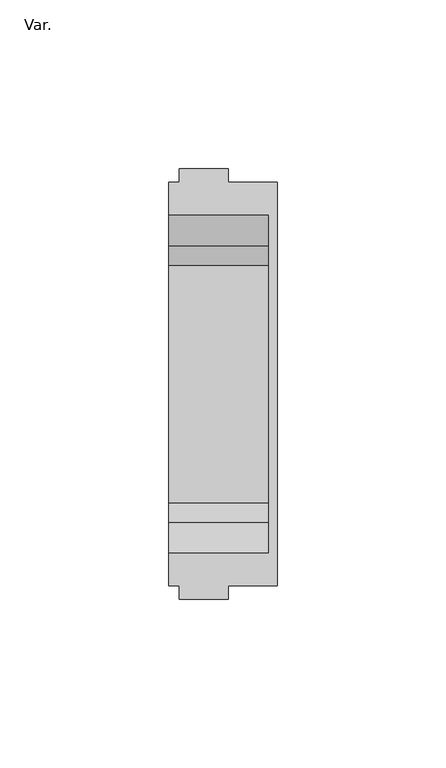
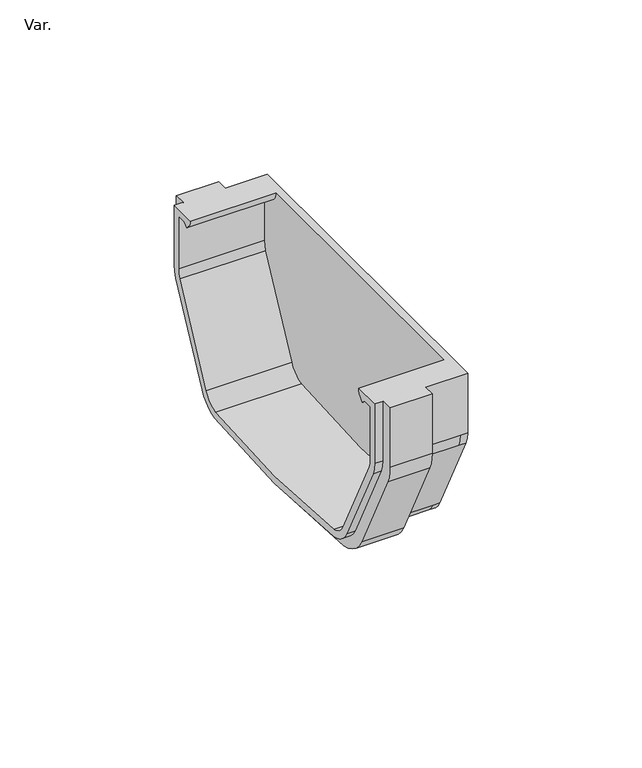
"""IFC4 building model written with IfcOpenShell, lengths in millimetres: pipe fitting geometry, PavcoWavin_UnionesDeTuberia_Canal Raingo_Tapa Externa : Var.."""

from ifc_helpers import new_model, si_unit, frame, origin, place, context, project, spatial, polyline, circle_curve, source, transform, mapped, element, save
from ifc_brep_helpers import plane_surface, cylinder_surface, revolved_surface, advanced_brep


def var_a2d437c5(model_context):
    return source(origin(), model_context, "Body", "AdvancedBrep", [
        advanced_brep(
        [(3.0, 59.65, 69.0), (3.0, 63.65, 69.0), (3.0, 63.65, 47.349975), (3.0, 62.3505519, 41.3222652), (3.0, 46.7108918, 9.9822491), (3.0, 36.1652462, 2.1078834), (3.0, -36.1652462, 2.1078834), (3.0, -46.7108918, 9.9822491), (3.0, -62.3505519, 41.3222652), (3.0, -63.65, 47.349975), (3.0, -63.65, 69.0), (3.0, -59.65, 69.0), (3.0, -59.65, 47.349975), (3.0, -58.7346069, 43.0345014), (3.0, -43.1317978, 11.7683303), (3.0, -35.5756149, 6.0662115), (3.0, 35.5756149, 6.0662115), (3.0, 43.1317978, 11.7683303), (3.0, 58.7346069, 43.0345014), (3.0, 59.65, 47.349975), (17.5, -63.65, 69.0), (17.5, -59.65, 69.0), (32.0, -59.65, 69.0), (32.0, 59.65, 69.0), (17.5, 59.65, 69.0), (17.5, 63.65, 69.0), (0.0, 59.65, 69.0), (0.0, 50.15, 69.0), (29.5, 50.15, 69.0), (29.5, -50.15, 69.0), (0.0, -50.15, 69.0), (0.0, -59.65, 69.0), (17.5, -63.65, 47.349975), (17.5, -62.3505519, 41.3222652), (17.5, -46.7108918, 9.9822491), (17.5, -36.1652462, 2.1078834), (17.5, 36.1652462, 2.1078834), (17.5, 46.7108918, 9.9822491), (17.5, 62.3505519, 41.3222652), (17.5, 63.65, 47.349975), (17.5, 59.65, 47.349975), (17.5, 58.7346069, 43.0345014), (17.5, 43.1317978, 11.7683303), (17.5, 35.5756149, 6.0662115), (17.5, -35.5756149, 6.0662115), (17.5, -43.1317978, 11.7683303), (17.5, -58.7346069, 43.0345014), (17.5, -59.65, 47.349975), (0.0, -52.2524004, 65.2296085), (0.0, -53.766394, 66.5), (0.0, -57.15, 66.5), (0.0, -57.15, 47.349975), (0.0, -56.4709703, 44.0972929), (0.0, -40.8948641, 12.8846311), (0.0, -35.1949678, 8.5387835), (0.0, 35.1949678, 8.5387835), (0.0, 40.8948641, 12.8846311), (0.0, 56.4709703, 44.0972929), (0.0, 57.15, 47.349975), (0.0, 57.15, 66.5), (0.0, 53.766394, 66.5), (0.0, 52.2524004, 65.2296085), (0.0, 59.65, 47.349975), (0.0, 58.7346069, 43.0345014), (0.0, 43.1317978, 11.7683303), (0.0, 35.5756149, 6.0662115), (0.0, -35.5756149, 6.0662115), (0.0, -43.1317978, 11.7683303), (0.0, -58.7346069, 43.0345014), (0.0, -59.65, 47.349975), (29.5, -59.65, 47.349975), (32.0, -59.65, 47.349975), (29.5, -58.7346069, 43.0345014), (29.5, -43.1317978, 11.7683303), (32.0, -43.1317978, 11.7683303), (32.0, -58.7346069, 43.0345014), (29.5, -35.5756149, 6.0662115), (29.5, 35.5756149, 6.0662115), (29.5, 43.1317978, 11.7683303), (29.5, 58.7346069, 43.0345014), (32.0, 58.7346069, 43.0345014), (32.0, 43.1317978, 11.7683303), (29.5, 59.65, 47.349975), (32.0, 59.65, 47.349975), (29.5, 52.2524004, 65.2296085), (29.5, 53.766394, 66.5), (29.5, 57.15, 66.5), (29.5, 57.15, 47.349975), (29.5, 56.4709703, 44.0972929), (29.5, 40.8948641, 12.8846311), (29.5, 35.1949678, 8.5387835), (29.5, -35.1949678, 8.5387835), (29.5, -40.8948641, 12.8846311), (29.5, -56.4709703, 44.0972929), (29.5, -57.15, 47.349975), (29.5, -57.15, 66.5), (29.5, -53.766394, 66.5), (29.5, -52.2524004, 65.2296085), (32.0, -35.5756149, 6.0662115), (32.0, 35.5756149, 6.0662115)],
        [
            (0, 1),
            (1, 2),
            (2, 3, circle_curve(frame((3.0, 49.02, 47.349975), z_axis=(-1.0, 0.0, 0.0), x_axis=(0.0, -1.0, 0.0)), 14.63)),
            (3, 4),
            (4, 5, circle_curve(frame((3.0, 33.6203555, 16.5148411), z_axis=(-1.0, 0.0, 0.0), x_axis=(0.0, -1.0, 0.0)), 14.63)),
            (5, 6, circle_curve(frame((3.0, 0.0, 311.3), z_axis=(-1.0, 0.0, 0.0), x_axis=(0.0, -1.0, 0.0)), 311.3)),
            (6, 7, circle_curve(frame((3.0, -33.6203555, 16.5148411), z_axis=(-1.0, 0.0, 0.0), x_axis=(0.0, -1.0, 0.0)), 14.63)),
            (7, 8),
            (8, 9, circle_curve(frame((3.0, -49.02, 47.349975), z_axis=(-1.0, 0.0, 0.0), x_axis=(0.0, -1.0, 0.0)), 14.63)),
            (9, 10),
            (10, 11),
            (11, 12),
            (12, 13, circle_curve(frame((3.0, -49.02, 47.349975), z_axis=(1.0, 0.0, 0.0), x_axis=(0.0, -1.0, 0.0)), 10.63)),
            (13, 14),
            (14, 15, circle_curve(frame((3.0, -33.6203555, 16.5148411), z_axis=(1.0, 0.0, 0.0), x_axis=(0.0, -1.0, 0.0)), 10.63)),
            (15, 16, circle_curve(frame((3.0, 0.0, 311.3), z_axis=(1.0, 0.0, 0.0), x_axis=(0.0, -1.0, 0.0)), 307.3)),
            (16, 17, circle_curve(frame((3.0, 33.6203555, 16.5148411), z_axis=(1.0, 0.0, 0.0), x_axis=(0.0, 1.0, 0.0)), 10.63)),
            (17, 18),
            (18, 19, circle_curve(frame((3.0, 49.02, 47.349975), z_axis=(1.0, 0.0, 0.0), x_axis=(0.0, 1.0, 0.0)), 10.63)),
            (19, 0),
            (10, 20),
            (20, 21),
            (21, 22),
            (22, 23),
            (23, 24),
            (24, 25),
            (25, 1),
            (0, 26),
            (26, 27),
            (27, 28),
            (28, 29),
            (29, 30),
            (30, 31),
            (31, 11),
            (9, 32),
            (32, 20),
            (8, 33),
            (33, 32, circle_curve(frame((17.5, -49.02, 47.349975), z_axis=(-1.0, 0.0, 0.0), x_axis=(0.0, -1.0, 0.0)), 14.63)),
            (7, 34),
            (34, 33),
            (6, 35),
            (35, 34, circle_curve(frame((17.5, -33.6203555, 16.5148411), z_axis=(-1.0, 0.0, 0.0), x_axis=(0.0, -1.0, 0.0)), 14.63)),
            (5, 36),
            (36, 35, circle_curve(frame((17.5, 0.0, 311.3), z_axis=(-1.0, 0.0, 0.0), x_axis=(0.0, -1.0, 0.0)), 311.3)),
            (4, 37),
            (37, 36, circle_curve(frame((17.5, 33.6203555, 16.5148411), z_axis=(-1.0, 0.0, 0.0), x_axis=(0.0, -1.0, 0.0)), 14.63)),
            (3, 38),
            (38, 37),
            (2, 39),
            (39, 38, circle_curve(frame((17.5, 49.02, 47.349975), z_axis=(-1.0, 0.0, 0.0), x_axis=(0.0, -1.0, 0.0)), 14.63)),
            (25, 39),
            (24, 40),
            (40, 41, circle_curve(frame((17.5, 49.02, 47.349975), z_axis=(-1.0, 0.0, 0.0), x_axis=(0.0, 1.0, 0.0)), 10.63)),
            (41, 42),
            (42, 43, circle_curve(frame((17.5, 33.6203555, 16.5148411), z_axis=(-1.0, 0.0, 0.0), x_axis=(0.0, 1.0, 0.0)), 10.63)),
            (43, 44, circle_curve(frame((17.5, 0.0, 311.3), z_axis=(-1.0, 0.0, 0.0), x_axis=(0.0, -1.0, 0.0)), 307.3)),
            (44, 45, circle_curve(frame((17.5, -33.6203555, 16.5148411), z_axis=(-1.0, 0.0, 0.0), x_axis=(0.0, -1.0, 0.0)), 10.63)),
            (45, 46),
            (46, 47, circle_curve(frame((17.5, -49.02, 47.349975), z_axis=(-1.0, 0.0, 0.0), x_axis=(0.0, -1.0, 0.0)), 10.63)),
            (47, 21),
            (30, 48, circle_curve(frame((0.0, -55.1403012, 69.3112785), z_axis=(-1.0, 0.0, 0.0), x_axis=(0.0, -1.0, 0.0)), 5.0)),
            (48, 49),
            (49, 50),
            (50, 51),
            (51, 52, circle_curve(frame((0.0, -49.02, 47.349975), z_axis=(1.0, 0.0, 0.0), x_axis=(0.0, -1.0, 0.0)), 8.13)),
            (52, 53),
            (53, 54, circle_curve(frame((0.0, -33.6203555, 16.5148411), z_axis=(1.0, 0.0, 0.0), x_axis=(0.0, -1.0, 0.0)), 8.13)),
            (54, 55, circle_curve(frame((0.0, 0.0, 311.3), z_axis=(1.0, 0.0, 0.0), x_axis=(0.0, -1.0, 0.0)), 304.8)),
            (55, 56, circle_curve(frame((0.0, 33.6203555, 16.5148411), z_axis=(1.0, 0.0, 0.0), x_axis=(0.0, 1.0, 0.0)), 8.13)),
            (56, 57),
            (57, 58, circle_curve(frame((0.0, 49.02, 47.349975), z_axis=(1.0, 0.0, 0.0), x_axis=(0.0, 1.0, 0.0)), 8.13)),
            (58, 59),
            (59, 60),
            (60, 61),
            (61, 27, circle_curve(frame((0.0, 55.1403012, 69.3112785), z_axis=(-1.0, 0.0, 0.0), x_axis=(0.0, 1.0, 0.0)), 5.0)),
            (26, 62),
            (62, 63, circle_curve(frame((0.0, 49.02, 47.349975), z_axis=(-1.0, 0.0, 0.0), x_axis=(0.0, 1.0, 0.0)), 10.63)),
            (63, 64),
            (64, 65, circle_curve(frame((0.0, 33.6203555, 16.5148411), z_axis=(-1.0, 0.0, 0.0), x_axis=(0.0, 1.0, 0.0)), 10.63)),
            (65, 66, circle_curve(frame((0.0, 0.0, 311.3), z_axis=(-1.0, 0.0, 0.0), x_axis=(0.0, -1.0, 0.0)), 307.3)),
            (66, 67, circle_curve(frame((0.0, -33.6203555, 16.5148411), z_axis=(-1.0, 0.0, 0.0), x_axis=(0.0, -1.0, 0.0)), 10.63)),
            (67, 68),
            (68, 69, circle_curve(frame((0.0, -49.02, 47.349975), z_axis=(-1.0, 0.0, 0.0), x_axis=(0.0, -1.0, 0.0)), 10.63)),
            (69, 31),
            (69, 12),
            (47, 70),
            (70, 71),
            (71, 22),
            (68, 13),
            (46, 72),
            (72, 70, circle_curve(frame((29.5, -49.02, 47.349975), z_axis=(-1.0, 0.0, 0.0), x_axis=(0.0, -1.0, 0.0)), 10.63)),
            (67, 14),
            (45, 73),
            (73, 74),
            (74, 75),
            (75, 72),
            (66, 15),
            (44, 76),
            (76, 73, circle_curve(frame((29.5, -33.6203555, 16.5148411), z_axis=(-1.0, 0.0, 0.0), x_axis=(0.0, -1.0, 0.0)), 10.63)),
            (65, 16),
            (43, 77),
            (77, 76, circle_curve(frame((29.5, 0.0, 311.3), z_axis=(-1.0, 0.0, 0.0), x_axis=(0.0, -1.0, 0.0)), 307.3)),
            (64, 17),
            (42, 78),
            (78, 77, circle_curve(frame((29.5, 33.6203555, 16.5148411), z_axis=(-1.0, 0.0, 0.0), x_axis=(0.0, 1.0, 0.0)), 10.63)),
            (63, 18),
            (41, 79),
            (79, 80),
            (80, 81),
            (81, 78),
            (62, 19),
            (40, 82),
            (82, 79, circle_curve(frame((29.5, 49.02, 47.349975), z_axis=(-1.0, 0.0, 0.0), x_axis=(0.0, 1.0, 0.0)), 10.63)),
            (23, 83),
            (83, 82),
            (61, 84),
            (84, 28, circle_curve(frame((29.5, 55.1403012, 69.3112785), z_axis=(-1.0, 0.0, 0.0), x_axis=(0.0, 1.0, 0.0)), 5.0)),
            (60, 85),
            (85, 84),
            (59, 86),
            (86, 85),
            (58, 87),
            (87, 86),
            (57, 88),
            (88, 87, circle_curve(frame((29.5, 49.02, 47.349975), z_axis=(1.0, 0.0, 0.0), x_axis=(0.0, 1.0, 0.0)), 8.13)),
            (56, 89),
            (89, 88),
            (55, 90),
            (90, 89, circle_curve(frame((29.5, 33.6203555, 16.5148411), z_axis=(1.0, 0.0, 0.0), x_axis=(0.0, 1.0, 0.0)), 8.13)),
            (54, 91),
            (91, 90, circle_curve(frame((29.5, 0.0, 311.3), z_axis=(1.0, 0.0, 0.0), x_axis=(0.0, -1.0, 0.0)), 304.8)),
            (53, 92),
            (92, 91, circle_curve(frame((29.5, -33.6203555, 16.5148411), z_axis=(1.0, 0.0, 0.0), x_axis=(0.0, -1.0, 0.0)), 8.13)),
            (52, 93),
            (93, 92),
            (51, 94),
            (94, 93, circle_curve(frame((29.5, -49.02, 47.349975), z_axis=(1.0, 0.0, 0.0), x_axis=(0.0, -1.0, 0.0)), 8.13)),
            (50, 95),
            (95, 94),
            (49, 96),
            (96, 95),
            (48, 97),
            (97, 96),
            (29, 97, circle_curve(frame((29.5, -55.1403012, 69.3112785), z_axis=(-1.0, 0.0, 0.0), x_axis=(0.0, -1.0, 0.0)), 5.0)),
            (71, 75, circle_curve(frame((32.0, -49.02, 47.349975), z_axis=(1.0, 0.0, 0.0), x_axis=(0.0, -1.0, 0.0)), 10.63)),
            (74, 98, circle_curve(frame((32.0, -33.6203555, 16.5148411), z_axis=(1.0, 0.0, 0.0), x_axis=(0.0, -1.0, 0.0)), 10.63)),
            (98, 99, circle_curve(frame((32.0, 0.0, 311.3), z_axis=(1.0, 0.0, 0.0), x_axis=(0.0, -1.0, 0.0)), 307.3)),
            (99, 81, circle_curve(frame((32.0, 33.6203555, 16.5148411), z_axis=(1.0, 0.0, 0.0), x_axis=(0.0, -1.0, 0.0)), 10.63)),
            (80, 83, circle_curve(frame((32.0, 49.02, 47.349975), z_axis=(1.0, 0.0, 0.0), x_axis=(0.0, -1.0, 0.0)), 10.63)),
            (76, 98),
            (77, 99),
        ],
        [
            plane_surface(frame((3.0, 59.65, 69.80297), z_axis=(-1.0, 0.0, 0.0), x_axis=(0.0, 0.0, 1.0))),
            plane_surface(frame((29.5, -59.65, 69.0), z_axis=(0.0, 0.0, 1.0), x_axis=(-1.0, 0.0, 0.0))),
            plane_surface(frame((29.5, -63.65, 69.0), z_axis=(0.0, -1.0, 0.0), x_axis=(-1.0, 0.0, 0.0))),
            cylinder_surface(frame((3.0, -49.02, 47.349975), z_axis=(1.0, 0.0, 0.0), x_axis=(0.0, -1.0, 0.0)), 14.63),
            plane_surface(frame((29.5, -62.3505519, 41.3222652), z_axis=(0.0, -0.8947735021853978, -0.4465203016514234), x_axis=(-1.0, 0.0, 0.0))),
            cylinder_surface(frame((3.0, -33.6203555, 16.5148411), z_axis=(1.0, 0.0, 0.0), x_axis=(0.0, -1.0, 0.0)), 14.63),
            cylinder_surface(frame((3.0, 0.0, 311.3), z_axis=(1.0, 0.0, 0.0), x_axis=(0.0, -1.0, 0.0)), 311.3),
            cylinder_surface(frame((3.0, 33.6203555, 16.5148411), z_axis=(1.0, 0.0, 0.0), x_axis=(0.0, -1.0, 0.0)), 14.63),
            plane_surface(frame((29.5, 46.7108918, 9.9822491), z_axis=(0.0, 0.8947735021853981, -0.4465203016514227), x_axis=(-1.0, 0.0, 0.0))),
            cylinder_surface(frame((3.0, 49.02, 47.349975), z_axis=(1.0, 0.0, 0.0), x_axis=(0.0, -1.0, 0.0)), 14.63),
            plane_surface(frame((29.5, 63.65, 47.349975), z_axis=(0.0, 1.0, 0.0), x_axis=(-1.0, 0.0, 0.0))),
            plane_surface(frame((17.5, 59.65, 69.80297), z_axis=(1.0, 0.0, 0.0), x_axis=(0.0, 0.0, 1.0))),
            plane_surface(frame((0.0, -59.65, 69.0), z_axis=(-1.0, 0.0, 0.0), x_axis=(0.0, 1.0, 0.0))),
            plane_surface(frame((29.5, -59.65, 69.0), z_axis=(0.0, -1.0, 0.0), x_axis=(-1.0, 0.0, 0.0))),
            cylinder_surface(frame((0.0, -49.02, 47.349975), z_axis=(1.0, 0.0, 0.0), x_axis=(0.0, -1.0, 0.0)), 10.63),
            plane_surface(frame((29.5, -58.7346069, 43.0345014), z_axis=(0.0, -0.8947735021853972, -0.44652030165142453), x_axis=(-1.0, 0.0, 0.0))),
            cylinder_surface(frame((0.0, -33.6203555, 16.5148411), z_axis=(1.0, 0.0, 0.0), x_axis=(0.0, -1.0, 0.0)), 10.63),
            cylinder_surface(frame((0.0, 0.0, 311.3), z_axis=(1.0, 0.0, 0.0), x_axis=(0.0, -1.0, 0.0)), 307.3),
            cylinder_surface(frame((0.0, 33.6203555, 16.5148411), z_axis=(1.0, 0.0, 0.0), x_axis=(0.0, 1.0, 0.0)), 10.63),
            plane_surface(frame((29.5, 43.1317978, 11.7683303), z_axis=(0.0, 0.8947735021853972, -0.4465203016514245), x_axis=(-1.0, 0.0, 0.0))),
            cylinder_surface(frame((0.0, 49.02, 47.349975), z_axis=(1.0, 0.0, 0.0), x_axis=(0.0, 1.0, 0.0)), 10.63),
            plane_surface(frame((29.5, 59.65, 47.349975), z_axis=(0.0, 1.0, 0.0), x_axis=(-1.0, 0.0, 0.0))),
            cylinder_surface(frame((0.0, 55.1403012, 69.3112785), z_axis=(1.0, 0.0, 0.0), x_axis=(0.0, 1.0, 0.0)), 5.0),
            plane_surface(frame((29.5, 52.2524004, 65.2296085), z_axis=(0.0, 0.6427876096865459, -0.7660444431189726), x_axis=(-1.0, 0.0, 0.0))),
            plane_surface(frame((29.5, 53.766394, 66.5), z_axis=(0.0, 0.0, -1.0), x_axis=(-1.0, 0.0, 0.0))),
            plane_surface(frame((29.5, 57.15, 66.5), z_axis=(0.0, -1.0, 0.0), x_axis=(-1.0, 0.0, 0.0))),
            revolved_surface(polyline([(0.0, 57.150000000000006, 47.349975), (29.5, 57.150000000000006, 47.349975)]), (0.0, 49.02, 47.349975), (-1.0, 0.0, 0.0)),
            plane_surface(frame((29.5, 56.4709703, 44.0972929), z_axis=(0.0, -0.8947735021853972, 0.44652030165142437), x_axis=(-1.0, 0.0, 0.0))),
            revolved_surface(polyline([(0.0, 41.750355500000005, 16.5148411), (29.5, 41.750355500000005, 16.5148411)]), (0.0, 33.6203555, 16.5148411), (-1.0, 0.0, 0.0)),
            revolved_surface(polyline([(0.0, -304.8, 311.3), (29.5, -304.8, 311.3)]), (0.0, 0.0, 311.3), (-1.0, 0.0, 0.0)),
            revolved_surface(polyline([(0.0, -41.750355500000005, 16.5148411), (29.5, -41.750355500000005, 16.5148411)]), (0.0, -33.6203555, 16.5148411), (-1.0, 0.0, 0.0)),
            plane_surface(frame((29.5, -40.8948641, 12.8846311), z_axis=(0.0, 0.8947735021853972, 0.44652030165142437), x_axis=(-1.0, 0.0, 0.0))),
            revolved_surface(polyline([(0.0, -57.150000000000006, 47.349975), (29.5, -57.150000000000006, 47.349975)]), (0.0, -49.02, 47.349975), (-1.0, 0.0, 0.0)),
            plane_surface(frame((29.5, -57.15, 47.349975), z_axis=(0.0, 1.0, 0.0), x_axis=(-1.0, 0.0, 0.0))),
            plane_surface(frame((29.5, -57.15, 66.5), z_axis=(0.0, 0.0, -1.0), x_axis=(-1.0, 0.0, 0.0))),
            plane_surface(frame((29.5, -53.766394, 66.5), z_axis=(0.0, -0.6427876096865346, -0.7660444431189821), x_axis=(-1.0, 0.0, 0.0))),
            cylinder_surface(frame((0.0, -55.1403012, 69.3112785), z_axis=(1.0, 0.0, 0.0), x_axis=(0.0, -1.0, 0.0)), 5.0),
            plane_surface(frame((32.0, -59.65, 74.30297), z_axis=(1.0, 0.0, 0.0), x_axis=(0.0, 0.0, -1.0))),
            plane_surface(frame((29.5, -59.65, 74.30297), z_axis=(-1.0, 0.0, 0.0), x_axis=(0.0, 0.0, 1.0))),
            cylinder_surface(frame((29.5, -49.02, 47.349975), z_axis=(1.0, 0.0, 0.0), x_axis=(0.0, -1.0, 0.0)), 10.63),
            cylinder_surface(frame((29.5, -33.6203555, 16.5148411), z_axis=(1.0, 0.0, 0.0), x_axis=(0.0, -1.0, 0.0)), 10.63),
            cylinder_surface(frame((29.5, 0.0, 311.3), z_axis=(1.0, 0.0, 0.0), x_axis=(0.0, -1.0, 0.0)), 307.3),
            cylinder_surface(frame((29.5, 33.6203555, 16.5148411), z_axis=(1.0, 0.0, 0.0), x_axis=(0.0, -1.0, 0.0)), 10.63),
            cylinder_surface(frame((29.5, 49.02, 47.349975), z_axis=(1.0, 0.0, 0.0), x_axis=(0.0, -1.0, 0.0)), 10.63),
        ],
        [
            (0, [[1, 2, 3, 4, 5, 6, 7, 8, 9, 10, 11, 12, 13, 14, 15, 16, 17, 18, 19, 20]]),
            (1, [[-11, 21, 22, 23, 24, 25, 26, 27, -1, 28, 29, 30, 31, 32, 33, 34]]),
            (2, [[-10, 35, 36, -21]]),
            (3, [[-9, 37, 38, -35]]),
            (4, [[-8, 39, 40, -37]]),
            (5, [[-7, 41, 42, -39]]),
            (6, [[-6, 43, 44, -41]]),
            (7, [[-5, 45, 46, -43]]),
            (8, [[-4, 47, 48, -45]]),
            (9, [[-3, 49, 50, -47]]),
            (10, [[-2, -27, 51, -49]]),
            (11, [[-22, -36, -38, -40, -42, -44, -46, -48, -50, -51, -26, 52, 53, 54, 55, 56, 57, 58, 59, 60]]),
            (12, [[61, 62, 63, 64, 65, 66, 67, 68, 69, 70, 71, 72, 73, 74, 75, -29, 76, 77, 78, 79, 80, 81, 82, 83, 84, -33]]),
            (13, [[-84, 85, -12, -34]]),
            (13, [[86, 87, 88, -23, -60]]),
            (14, [[-83, 89, -13, -85]]),
            (14, [[90, 91, -86, -59]]),
            (15, [[-82, 92, -14, -89]]),
            (15, [[93, 94, 95, 96, -90, -58]]),
            (16, [[-81, 97, -15, -92]]),
            (16, [[98, 99, -93, -57]]),
            (17, [[-80, 100, -16, -97]]),
            (17, [[101, 102, -98, -56]]),
            (18, [[-79, 103, -17, -100]]),
            (18, [[104, 105, -101, -55]]),
            (19, [[-78, 106, -18, -103]]),
            (19, [[107, 108, 109, 110, -104, -54]]),
            (20, [[-77, 111, -19, -106]]),
            (20, [[112, 113, -107, -53]]),
            (21, [[-76, -28, -20, -111]]),
            (21, [[-112, -52, -25, 114, 115]]),
            (22, [[-75, 116, 117, -30]]),
            (23, [[-74, 118, 119, -116]]),
            (24, [[-73, 120, 121, -118]]),
            (25, [[-72, 122, 123, -120]]),
            (26, [[-71, 124, 125, -122]]),
            (27, [[-70, 126, 127, -124]]),
            (28, [[-69, 128, 129, -126]]),
            (29, [[-68, 130, 131, -128]]),
            (30, [[-67, 132, 133, -130]]),
            (31, [[-66, 134, 135, -132]]),
            (32, [[-65, 136, 137, -134]]),
            (33, [[-64, 138, 139, -136]]),
            (34, [[-63, 140, 141, -138]]),
            (35, [[-62, 142, 143, -140]]),
            (36, [[-61, -32, 144, -142]]),
            (37, [[-88, 145, -95, 146, 147, 148, -109, 149, -114, -24]]),
            (38, [[-31, -117, -119, -121, -123, -125, -127, -129, -131, -133, -135, -137, -139, -141, -143, -144]]),
            (39, [[-145, -87, -91, -96]]),
            (40, [[-146, -94, -99, 150]]),
            (41, [[-147, -150, -102, 151]]),
            (42, [[-148, -151, -105, -110]]),
            (43, [[-149, -108, -113, -115]]),
        ],
    ),
    ])


if __name__ == "__main__":
    model = new_model("IFC4")
    model_context = context("Model", 3, world=origin())
    ifc_project = project(units=[si_unit("LENGTHUNIT", "METRE", prefix="MILLI")], contexts=[model_context])
    site = spatial("IfcSite", under=ifc_project)
    building = spatial("IfcBuilding", under=site)
    placement = place(None, origin())
    var_shape = var_a2d437c5(model_context)
    element("IfcPipeFitting", 1, ObjectType="PavcoWavin_UnionesDeTuberia_Canal Raingo_Tapa Externa : Var.", at=placement, inside=building, context=model_context, shape_type="MappedRepresentation", body=[
        mapped(var_shape, transform((0.0, 0.0, 0.0), x_axis=(1.0, 0.0, 0.0), y_axis=(0.0, 1.0, 0.0), z_axis=(0.0, 0.0, 1.0))),
    ])
    save(model, "model.ifc")
